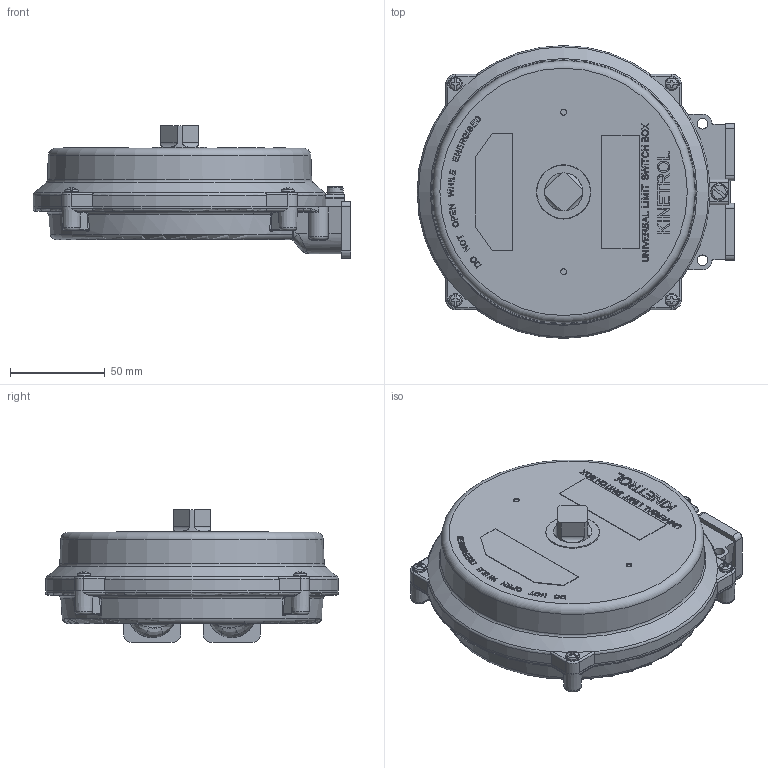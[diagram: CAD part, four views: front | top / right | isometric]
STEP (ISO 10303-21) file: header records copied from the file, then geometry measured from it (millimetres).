
FILE_DESCRIPTION( ( 'Unknown' ), '1' );
FILE_NAME( 'H:/3D Models for Customers/ULS/ULS 2 PORT.stp', 'Unknown', ( 'Unknown' ), ( 'Unknown' ), 'PSStep 13.0', 'Unknown', ' ' );
FILE_SCHEMA( ( 'AUTOMOTIVE_DESIGN { 1 0 10303 214 1 1 1 1 }' ) );
Length unit declared in the file: millimetre
Products named in the file (1): 305004001 ULS 2 PORT 07-10 M.C
Bounding box: 167.5 x 154.4 x 70.06 mm (x, y, z)
Volume: 790547.9 mm3; surface area: 97811.1 mm2
Topology: 1 solids, 7 shells, 1342 faces, 3517 edges, 2271 vertices
Faces by surface type: plane 701, extrusion 273, cylinder 135, bspline 85, cone 70, torus 64, sphere 14
Full cylindrical faces by diameter (mm): 2.5 x8, 3.5 x4, 4.2 x5, 5.6 x2, 6 x1, 7 x4, 11.6 x1, 18.5 x2, 20 x1, 21 x2, 28.225 x1, 28.6 x1
Entity records: 66274 total; most frequent: CARTESIAN_POINT 24832, ORIENTED_EDGE 6694, DIRECTION 5307, EDGE_CURVE 3347, VECTOR 2239, VERTEX_POINT 2220, LINE 1966, EDGE_LOOP 1549
